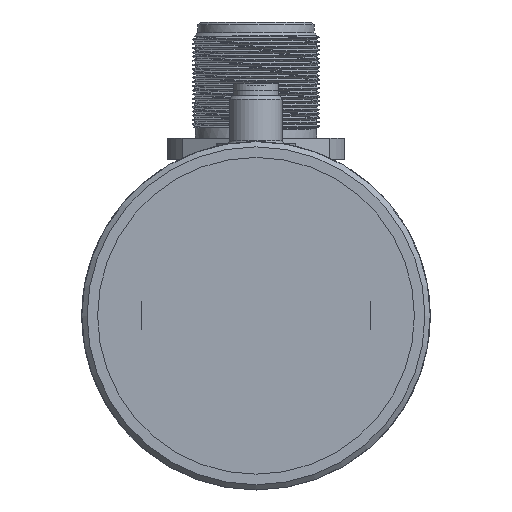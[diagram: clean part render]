
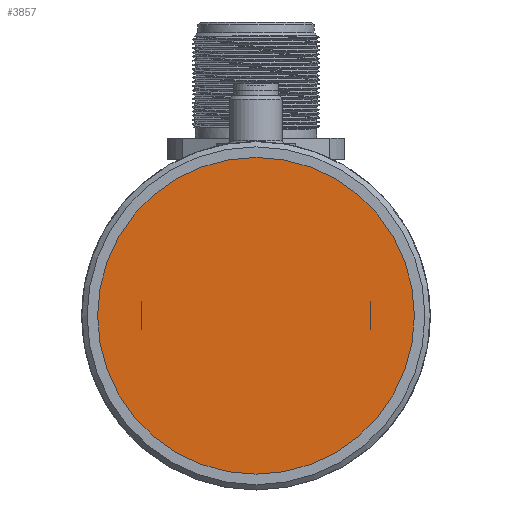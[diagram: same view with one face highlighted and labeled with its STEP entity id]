
A CAD part, left-side view. The second image highlights one B-rep face of the part: STEP entity #3857.
In plain terms, the highlighted planar face has unit normal (-1, 0, 0).
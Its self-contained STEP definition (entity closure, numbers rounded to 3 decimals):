
#838=PLANE('',#4158);
#953=CIRCLE('',#4156,15.);
#1213=VERTEX_POINT('',#6114);
#1682=EDGE_CURVE('',#1213,#1213,#953,.T.);
#2291=ORIENTED_EDGE('',*,*,#1682,.T.);
#3114=EDGE_LOOP('',(#2291));
#3495=FACE_BOUND('',#3114,.T.);
#3857=ADVANCED_FACE('',(#3495),#838,.T.);
#4156=AXIS2_PLACEMENT_3D('',#6113,#4674,#4675);
#4158=AXIS2_PLACEMENT_3D('',#6117,#4678,$);
#4674=DIRECTION('',(-1.,0.,0.));
#4675=DIRECTION('',(0.,0.,15.));
#4678=DIRECTION('',(-1.,0.,0.));
#6113=CARTESIAN_POINT('',(1.,0.,0.));
#6114=CARTESIAN_POINT('',(1.,0.,15.));
#6117=CARTESIAN_POINT('',(1.,0.,0.));
